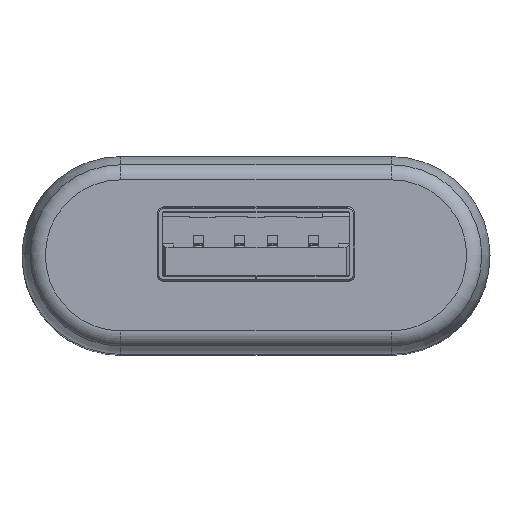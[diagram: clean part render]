
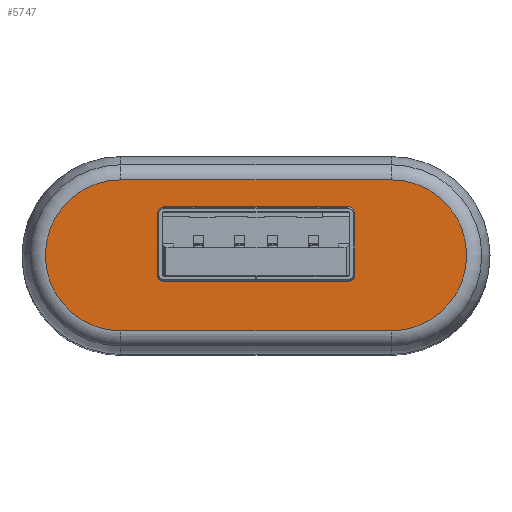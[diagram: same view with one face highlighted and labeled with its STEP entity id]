
A CAD part, top view. The second image highlights one B-rep face of the part: STEP entity #5747.
In plain terms, the highlighted planar face has unit normal (0, 0, 1).
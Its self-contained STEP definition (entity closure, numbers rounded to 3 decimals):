
#64=PLANE('',#7075);
#285=LINE('',#9324,#993);
#286=LINE('',#9328,#994);
#287=LINE('',#9331,#995);
#288=LINE('',#9336,#996);
#289=LINE('',#9340,#997);
#290=LINE('',#9344,#998);
#993=VECTOR('',#7638,1000.);
#994=VECTOR('',#7643,1000.);
#995=VECTOR('',#7646,1000.);
#996=VECTOR('',#7649,1000.);
#997=VECTOR('',#7652,1000.);
#998=VECTOR('',#7655,1000.);
#1743=ORIENTED_EDGE('',*,*,#3318,.T.);
#1744=ORIENTED_EDGE('',*,*,#3319,.T.);
#1745=ORIENTED_EDGE('',*,*,#3320,.T.);
#1746=ORIENTED_EDGE('',*,*,#3317,.T.);
#1747=ORIENTED_EDGE('',*,*,#3321,.F.);
#1748=ORIENTED_EDGE('',*,*,#3322,.F.);
#1749=ORIENTED_EDGE('',*,*,#3323,.F.);
#1750=ORIENTED_EDGE('',*,*,#3324,.F.);
#1751=ORIENTED_EDGE('',*,*,#3325,.F.);
#1752=ORIENTED_EDGE('',*,*,#3326,.F.);
#1753=ORIENTED_EDGE('',*,*,#3327,.F.);
#1754=ORIENTED_EDGE('',*,*,#3328,.F.);
#3317=EDGE_CURVE('',#4229,#4231,#285,.T.);
#3318=EDGE_CURVE('',#4231,#4232,#4864,.T.);
#3319=EDGE_CURVE('',#4232,#4233,#286,.T.);
#3320=EDGE_CURVE('',#4233,#4229,#4865,.T.);
#3321=EDGE_CURVE('',#4234,#4235,#287,.T.);
#3322=EDGE_CURVE('',#4236,#4234,#4866,.T.);
#3323=EDGE_CURVE('',#4237,#4236,#288,.T.);
#3324=EDGE_CURVE('',#4238,#4237,#4867,.T.);
#3325=EDGE_CURVE('',#4239,#4238,#289,.T.);
#3326=EDGE_CURVE('',#4240,#4239,#4868,.T.);
#3327=EDGE_CURVE('',#4241,#4240,#290,.T.);
#3328=EDGE_CURVE('',#4235,#4241,#4869,.T.);
#4229=VERTEX_POINT('',#9319);
#4231=VERTEX_POINT('',#9323);
#4232=VERTEX_POINT('',#9327);
#4233=VERTEX_POINT('',#9329);
#4234=VERTEX_POINT('',#9332);
#4235=VERTEX_POINT('',#9333);
#4236=VERTEX_POINT('',#9335);
#4237=VERTEX_POINT('',#9337);
#4238=VERTEX_POINT('',#9339);
#4239=VERTEX_POINT('',#9341);
#4240=VERTEX_POINT('',#9343);
#4241=VERTEX_POINT('',#9345);
#4864=CIRCLE('',#7076,4.583);
#4865=CIRCLE('',#7077,4.583);
#4866=CIRCLE('',#7078,0.4);
#4867=CIRCLE('',#7079,0.4);
#4868=CIRCLE('',#7080,0.4);
#4869=CIRCLE('',#7081,0.4);
#5052=EDGE_LOOP('',(#1743,#1744,#1745,#1746));
#5053=EDGE_LOOP('',(#1747,#1748,#1749,#1750,#1751,#1752,#1753,#1754));
#5365=FACE_BOUND('',#5052,.T.);
#5366=FACE_BOUND('',#5053,.T.);
#5747=ADVANCED_FACE('',(#5365,#5366),#64,.T.);
#7075=AXIS2_PLACEMENT_3D('',#9325,#7639,#7640);
#7076=AXIS2_PLACEMENT_3D('',#9326,#7641,#7642);
#7077=AXIS2_PLACEMENT_3D('',#9330,#7644,#7645);
#7078=AXIS2_PLACEMENT_3D('',#9334,#7647,#7648);
#7079=AXIS2_PLACEMENT_3D('',#9338,#7650,#7651);
#7080=AXIS2_PLACEMENT_3D('',#9342,#7653,#7654);
#7081=AXIS2_PLACEMENT_3D('',#9346,#7656,#7657);
#7638=DIRECTION('',(1.,0.,0.));
#7639=DIRECTION('',(0.,0.,1.));
#7640=DIRECTION('',(1.,0.,0.));
#7641=DIRECTION('',(0.,0.,1.));
#7642=DIRECTION('',(1.,0.,0.));
#7643=DIRECTION('',(-1.,0.,0.));
#7644=DIRECTION('',(0.,0.,1.));
#7645=DIRECTION('',(1.,0.,0.));
#7646=DIRECTION('',(-1.,0.,0.));
#7647=DIRECTION('',(0.,0.,1.));
#7648=DIRECTION('',(-1.,0.,0.));
#7649=DIRECTION('',(0.,1.,0.));
#7650=DIRECTION('',(0.,0.,1.));
#7651=DIRECTION('',(-1.,0.,0.));
#7652=DIRECTION('',(1.,0.,0.));
#7653=DIRECTION('',(0.,0.,1.));
#7654=DIRECTION('',(1.,0.,0.));
#7655=DIRECTION('',(0.,-1.,0.));
#7656=DIRECTION('',(0.,0.,1.));
#7657=DIRECTION('',(1.,0.,0.));
#9319=CARTESIAN_POINT('',(-8.2,-5.253,-2.6));
#9323=CARTESIAN_POINT('',(8.2,-5.253,-2.6));
#9324=CARTESIAN_POINT('',(-8.2,-5.253,-2.6));
#9325=CARTESIAN_POINT('',(-8.2,-0.67,-2.6));
#9326=CARTESIAN_POINT('',(8.2,-0.67,-2.6));
#9327=CARTESIAN_POINT('',(8.2,3.913,-2.6));
#9328=CARTESIAN_POINT('',(-8.2,3.913,-2.6));
#9329=CARTESIAN_POINT('',(-8.2,3.913,-2.6));
#9330=CARTESIAN_POINT('',(-8.2,-0.67,-2.6));
#9331=CARTESIAN_POINT('',(5.599,2.25,-2.6));
#9332=CARTESIAN_POINT('',(5.599,2.25,-2.6));
#9333=CARTESIAN_POINT('',(-5.6,2.25,-2.6));
#9334=CARTESIAN_POINT('',(5.6,1.85,-2.6));
#9335=CARTESIAN_POINT('',(6.,1.85,-2.6));
#9336=CARTESIAN_POINT('',(6.,1.85,-2.6));
#9337=CARTESIAN_POINT('',(6.,-1.85,-2.6));
#9338=CARTESIAN_POINT('',(5.6,-1.85,-2.6));
#9339=CARTESIAN_POINT('',(5.6,-2.25,-2.6));
#9340=CARTESIAN_POINT('',(-5.6,-2.25,-2.6));
#9341=CARTESIAN_POINT('',(-5.6,-2.25,-2.6));
#9342=CARTESIAN_POINT('',(-5.6,-1.85,-2.6));
#9343=CARTESIAN_POINT('',(-6.,-1.85,-2.6));
#9344=CARTESIAN_POINT('',(-6.,1.85,-2.6));
#9345=CARTESIAN_POINT('',(-6.,1.85,-2.6));
#9346=CARTESIAN_POINT('',(-5.6,1.85,-2.6));
